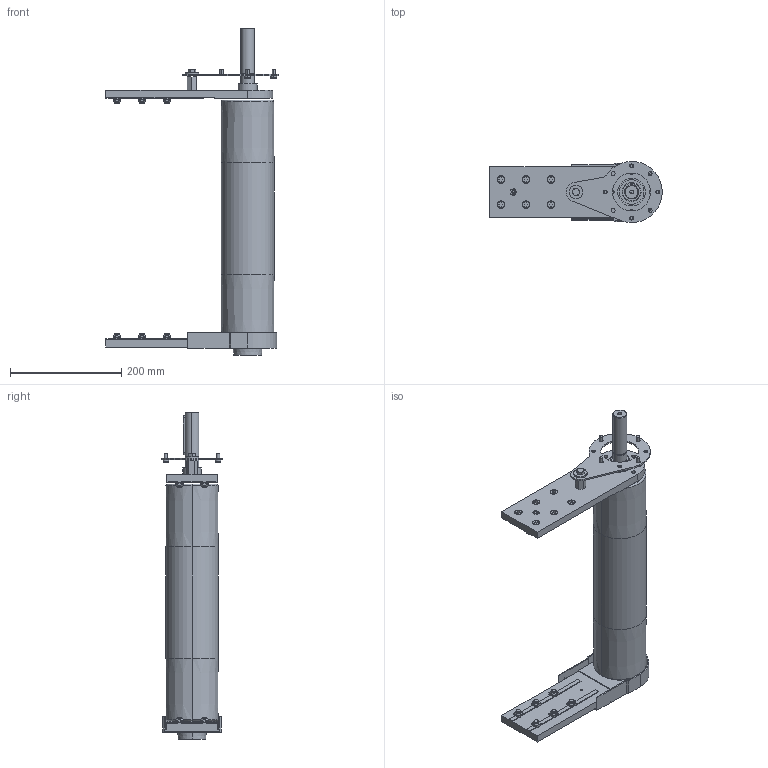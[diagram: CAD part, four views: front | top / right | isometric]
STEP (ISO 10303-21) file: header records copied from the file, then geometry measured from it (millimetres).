
FILE_DESCRIPTION (( 'STEP AP203' ), '1' );
FILE_NAME ('084.095.KD.49.400.STEP', '2015-11-12T09:59:40', ( '' ), ( '' ), 'SwSTEP 2.0', 'SolidWorks 2012', '' );
FILE_SCHEMA (( 'CONFIG_CONTROL_DESIGN' ));
Length unit declared in the file: millimetre
Products named in the file (1): 084.095.KD.49.400
Bounding box: 310 x 110 x 588.5 mm (x, y, z)
Surface area: 366937.1 mm2 (no closed solid volume)
Topology: 0 solids, 64 shells, 668 faces, 2302 edges, 1659 vertices
Faces by surface type: plane 395, cylinder 147, torus 62, cone 54, bspline 10
Entity records: 25720 total; most frequent: CARTESIAN_POINT 5910, DIRECTION 4106, ORIENTED_EDGE 3630, EDGE_CURVE 2302, VERTEX_POINT 1659, VECTOR 1424, LINE 1424, AXIS2_PLACEMENT_3D 1341
